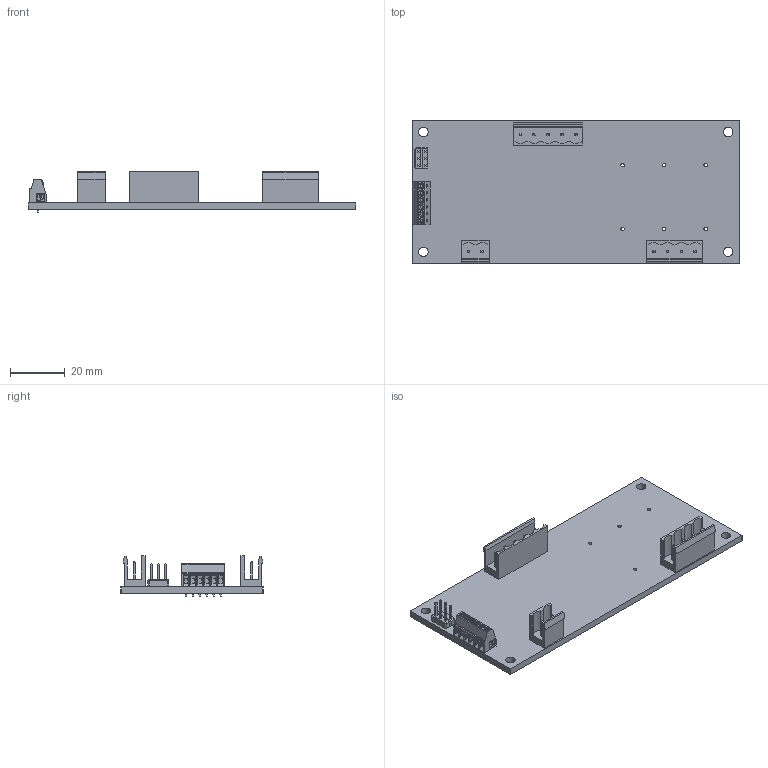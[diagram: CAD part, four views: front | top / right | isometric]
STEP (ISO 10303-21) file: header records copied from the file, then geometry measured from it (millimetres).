
FILE_DESCRIPTION(('Open CASCADE Model'),'2;1');
FILE_NAME('Open CASCADE Shape Model','2016-10-28T19:08:51',('Author'),( 'Open CASCADE'),'Open CASCADE STEP processor 6.5','Open CASCADE 6.5' ,'Unknown');
FILE_SCHEMA(('AUTOMOTIVE_DESIGN { 1 0 10303 214 1 1 1 1 }'));
Length unit declared in the file: millimetre
Products named in the file (12): PCB; BoardATM_Analog; PG1ATM_Analog; Morsetto_6P_2_54; M3ATM_Analog; M2; M2ATM_Analog; M5; M1ATM_Analog; M4; J1ATM_Analog; 6PIN
Assembly tree (11 placements, depth 3):
  PCB
    BoardATM_Analog
    PG1ATM_Analog
      Morsetto_6P_2_54
    M3ATM_Analog
      M2
    M2ATM_Analog
      M5
    M1ATM_Analog
      M4
    J1ATM_Analog
      6PIN
Bounding box: 120.14 x 52.16 x 14.93 mm (x, y, z)
Volume: 18717 mm3; surface area: 18254.3 mm2
Topology: 6 solids, 6 shells, 662 faces, 1607 edges, 1008 vertices
Faces by surface type: plane 515, cylinder 135, sphere 12
Full cylindrical faces by diameter (mm): 0.9 x6, 1.1 x6, 1.27 x6, 1.4 x5, 1.5 x6, 3.5 x4
Entity records: 51302 total; most frequent: CARTESIAN_POINT 12035, DIRECTION 5823, LINE 3591, VECTOR 3591, ORIENTED_EDGE 3214, PCURVE 3214, DEFINITIONAL_REPRESENTATION 3214, EDGE_CURVE 1607
